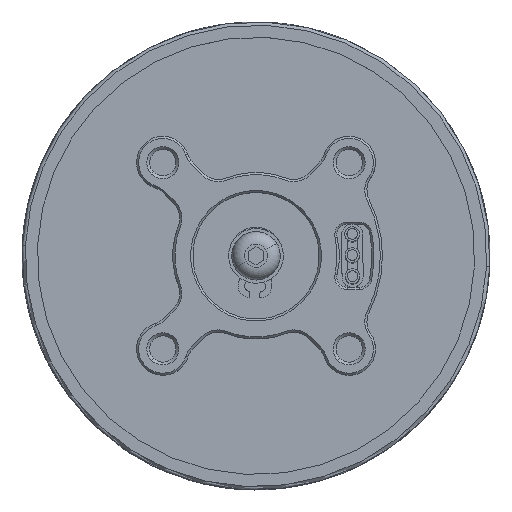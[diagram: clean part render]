
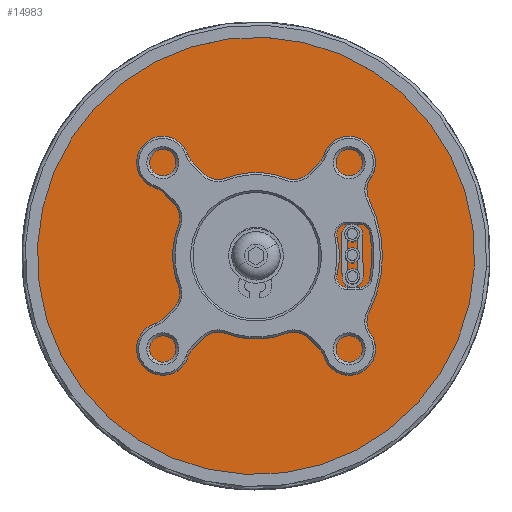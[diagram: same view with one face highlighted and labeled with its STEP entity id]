
A CAD part, top view. The second image highlights one B-rep face of the part: STEP entity #14983.
In plain terms, the highlighted planar face has unit normal (0, 0, 1).
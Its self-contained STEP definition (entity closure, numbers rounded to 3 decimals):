
#2143 = CARTESIAN_POINT ( 'NONE',  ( 111.747, 0., -8.244 ) ) ;
#3326 = DIRECTION ( 'NONE',  ( 0., 0., 1. ) ) ;
#3640 = ORIENTED_EDGE ( 'NONE', *, *, #59280, .F. ) ;
#7320 = DIRECTION ( 'NONE',  ( 0., 0., -1. ) ) ;
#14328 = DIRECTION ( 'NONE',  ( 0., 0., 1. ) ) ;
#14983 = ADVANCED_FACE ( 'NONE', ( #48134, #78502 ), #22974, .T. ) ;
#15444 = EDGE_CURVE ( 'NONE', #42202, #71809, #70116, .T. ) ;
#18193 = AXIS2_PLACEMENT_3D ( 'NONE', #2143, #14328, #44779 ) ;
#19121 = EDGE_LOOP ( 'NONE', ( #3640, #78367 ) ) ;
#21794 = CARTESIAN_POINT ( 'NONE',  ( 111.747, 0., -8.244 ) ) ;
#22974 = PLANE ( 'NONE',  #54617 ) ;
#23193 = EDGE_CURVE ( 'NONE', #78244, #35210, #23326, .T. ) ;
#23326 = CIRCLE ( 'NONE', #18193, 7.9 ) ;
#23864 = CIRCLE ( 'NONE', #69196, 20.832 ) ;
#26470 = CARTESIAN_POINT ( 'NONE',  ( 111.747, 0., -8.244 ) ) ;
#26728 = CARTESIAN_POINT ( 'NONE',  ( 90.937, 0.958, -8.244 ) ) ;
#26752 = CARTESIAN_POINT ( 'NONE',  ( 111.747, 0., -8.244 ) ) ;
#27665 = CARTESIAN_POINT ( 'NONE',  ( 111.747, 0., -8.244 ) ) ;
#35210 = VERTEX_POINT ( 'NONE', #78810 ) ;
#37982 = CARTESIAN_POINT ( 'NONE',  ( 132.557, -0.958, -8.244 ) ) ;
#39332 = DIRECTION ( 'NONE',  ( 1., 0., 0. ) ) ;
#40515 = AXIS2_PLACEMENT_3D ( 'NONE', #27665, #3326, #71435 ) ;
#42202 = VERTEX_POINT ( 'NONE', #26728 ) ;
#44779 = DIRECTION ( 'NONE',  ( 1., 0., 0. ) ) ;
#45162 = DIRECTION ( 'NONE',  ( 0., 0., -1. ) ) ;
#45566 = AXIS2_PLACEMENT_3D ( 'NONE', #26470, #45162, #69848 ) ;
#45984 = ORIENTED_EDGE ( 'NONE', *, *, #23193, .F. ) ;
#46558 = DIRECTION ( 'NONE',  ( 1., 0., 0. ) ) ;
#47088 = ORIENTED_EDGE ( 'NONE', *, *, #66719, .F. ) ;
#47748 = DIRECTION ( 'NONE',  ( 0., 0., 1. ) ) ;
#48134 = FACE_BOUND ( 'NONE', #69601, .T. ) ;
#54617 = AXIS2_PLACEMENT_3D ( 'NONE', #21794, #47748, #46558 ) ;
#59280 = EDGE_CURVE ( 'NONE', #71809, #42202, #23864, .T. ) ;
#66719 = EDGE_CURVE ( 'NONE', #35210, #78244, #75455, .T. ) ;
#69196 = AXIS2_PLACEMENT_3D ( 'NONE', #26752, #7320, #39332 ) ;
#69601 = EDGE_LOOP ( 'NONE', ( #45984, #47088 ) ) ;
#69848 = DIRECTION ( 'NONE',  ( 1., 0., 0. ) ) ;
#70116 = CIRCLE ( 'NONE', #45566, 20.832 ) ;
#71435 = DIRECTION ( 'NONE',  ( 1., 0., 0. ) ) ;
#71809 = VERTEX_POINT ( 'NONE', #37982 ) ;
#72274 = CARTESIAN_POINT ( 'NONE',  ( 117.333, 5.586, -8.244 ) ) ;
#75455 = CIRCLE ( 'NONE', #40515, 7.9 ) ;
#78244 = VERTEX_POINT ( 'NONE', #72274 ) ;
#78367 = ORIENTED_EDGE ( 'NONE', *, *, #15444, .F. ) ;
#78502 = FACE_OUTER_BOUND ( 'NONE', #19121, .T. ) ;
#78810 = CARTESIAN_POINT ( 'NONE',  ( 106.161, -5.586, -8.244 ) ) ;
